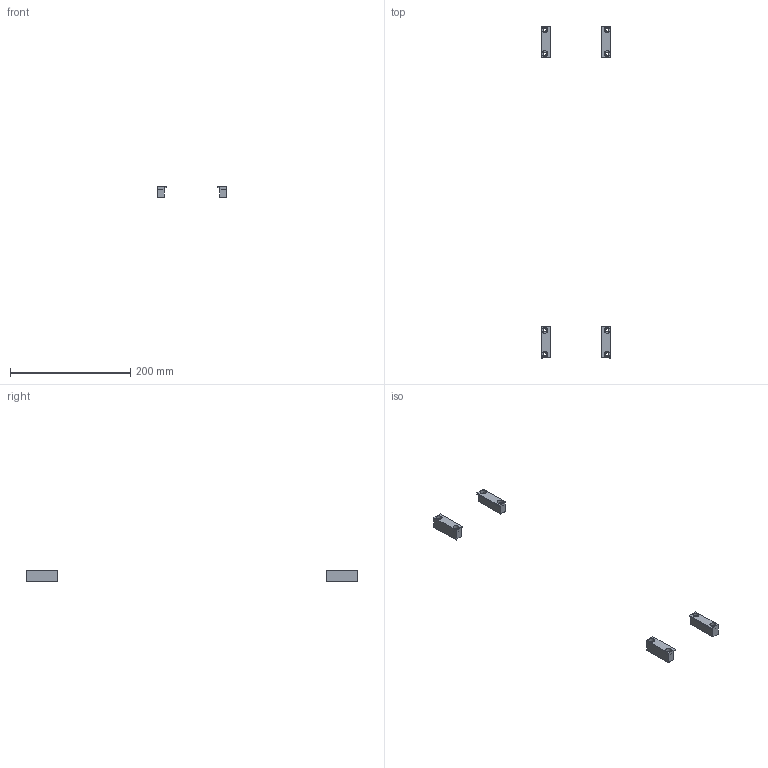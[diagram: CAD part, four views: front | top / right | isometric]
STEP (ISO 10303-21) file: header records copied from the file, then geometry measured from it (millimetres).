
FILE_DESCRIPTION(/* description */ ('Toe Clamps - Short 30 mm (4 pcs)'),/* implementation_level */ '2;1');
FILE_NAME(/* name */ 'D:\InventorWorkspace2017\CAD\Projekte_EDEM\HLR\0232.901-03.stp',/* time_stamp */ '2019-02-13T12:20:35+01:00',/* author */ ('AR64535'),/* organization */ (''),/* preprocessor_version */ 'ST-DEVELOPER v16.5',/* originating_system */ 'Autodesk Inventor 2017',/* authorisation */ '');
FILE_SCHEMA (('AUTOMOTIVE_DESIGN { 1 0 10303 214 3 1 1 }'));
Length unit declared in the file: millimetre
Products named in the file (2): 0232.901-03; 0231.011
Assembly tree (4 placements, depth 2):
  0232.901-03
    0231.011  x4
Bounding box: 116 x 552 x 19.9 mm (x, y, z)
Volume: 43191.6 mm3; surface area: 19251.9 mm2
Topology: 4 solids, 4 shells, 64 faces, 144 edges, 96 vertices
Faces by surface type: plane 48, cylinder 16
Full cylindrical faces by diameter (mm): 5.5 x8, 10 x8
Entity records: 516 total; most frequent: DIRECTION 84, CARTESIAN_POINT 78, ORIENTED_EDGE 64, EDGE_CURVE 32, AXIS2_PLACEMENT_3D 30, EDGE_LOOP 26, LINE 24, VECTOR 24
